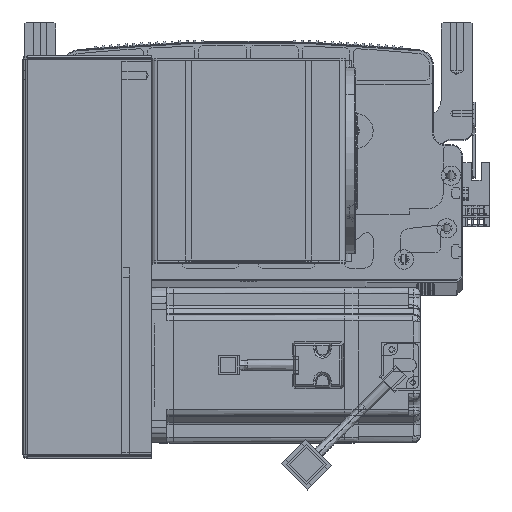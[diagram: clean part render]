
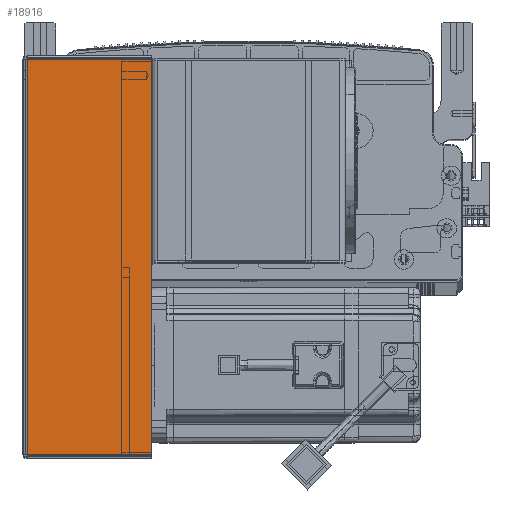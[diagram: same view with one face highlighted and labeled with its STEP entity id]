
A CAD part, top view. The second image highlights one B-rep face of the part: STEP entity #18916.
In plain terms, the highlighted planar face has unit normal (0, 0, 1) as drawn and (0, -1, 0) by its records, which use the part's own axes.
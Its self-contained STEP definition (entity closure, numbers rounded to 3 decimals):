
#1223 = CARTESIAN_POINT ( 'NONE',  ( 0.737, -1.5, -203.293 ) ) ;
#9835 = DIRECTION ( 'NONE',  ( 0., 1., 0. ) ) ;
#14717 = CARTESIAN_POINT ( 'NONE',  ( 0.737, -1.5, -0.707 ) ) ;
#15095 = VECTOR ( 'NONE', #62530, 1000. ) ;
#17149 = LINE ( 'NONE', #20524, #32122 ) ;
#17213 = PLANE ( 'NONE',  #79154 ) ;
#18916 = ADVANCED_FACE ( 'NONE', ( #87754 ), #17213, .F. ) ;
#20524 = CARTESIAN_POINT ( 'NONE',  ( 0., -1.5, -0.707 ) ) ;
#20832 = EDGE_CURVE ( 'NONE', #47890, #25696, #31324, .T. ) ;
#22835 = CARTESIAN_POINT ( 'NONE',  ( 0.737, -1.5, 0. ) ) ;
#25696 = VERTEX_POINT ( 'NONE', #14717 ) ;
#28759 = VECTOR ( 'NONE', #82819, 1000. ) ;
#31261 = LINE ( 'NONE', #89136, #28759 ) ;
#31324 = LINE ( 'NONE', #22835, #15095 ) ;
#32122 = VECTOR ( 'NONE', #52960, 1000. ) ;
#47890 = VERTEX_POINT ( 'NONE', #1223 ) ;
#51246 = CARTESIAN_POINT ( 'NONE',  ( 64.5, -1.5, -203.293 ) ) ;
#52960 = DIRECTION ( 'NONE',  ( 1., 0., 0. ) ) ;
#60306 = VERTEX_POINT ( 'NONE', #95303 ) ;
#62008 = EDGE_LOOP ( 'NONE', ( #68480, #86475, #79186, #77429 ) ) ;
#62530 = DIRECTION ( 'NONE',  ( 0., 0., 1. ) ) ;
#63996 = EDGE_CURVE ( 'NONE', #69402, #60306, #91494, .T. ) ;
#64336 = CARTESIAN_POINT ( 'NONE',  ( 64.5, -1.5, 0. ) ) ;
#66562 = VECTOR ( 'NONE', #72387, 1000. ) ;
#68480 = ORIENTED_EDGE ( 'NONE', *, *, #20832, .F. ) ;
#69402 = VERTEX_POINT ( 'NONE', #51246 ) ;
#72387 = DIRECTION ( 'NONE',  ( 0., 0., 1. ) ) ;
#76221 = EDGE_CURVE ( 'NONE', #47890, #69402, #31261, .T. ) ;
#77429 = ORIENTED_EDGE ( 'NONE', *, *, #87662, .F. ) ;
#79154 = AXIS2_PLACEMENT_3D ( 'NONE', #89380, #9835, #80325 ) ;
#79186 = ORIENTED_EDGE ( 'NONE', *, *, #63996, .T. ) ;
#80325 = DIRECTION ( 'NONE',  ( -1., 0., 0. ) ) ;
#82819 = DIRECTION ( 'NONE',  ( 1., 0., 0. ) ) ;
#86475 = ORIENTED_EDGE ( 'NONE', *, *, #76221, .T. ) ;
#87662 = EDGE_CURVE ( 'NONE', #25696, #60306, #17149, .T. ) ;
#87754 = FACE_OUTER_BOUND ( 'NONE', #62008, .T. ) ;
#89136 = CARTESIAN_POINT ( 'NONE',  ( 0., -1.5, -203.293 ) ) ;
#89380 = CARTESIAN_POINT ( 'NONE',  ( 0., -1.5, 0. ) ) ;
#91494 = LINE ( 'NONE', #64336, #66562 ) ;
#95303 = CARTESIAN_POINT ( 'NONE',  ( 64.5, -1.5, -0.707 ) ) ;
